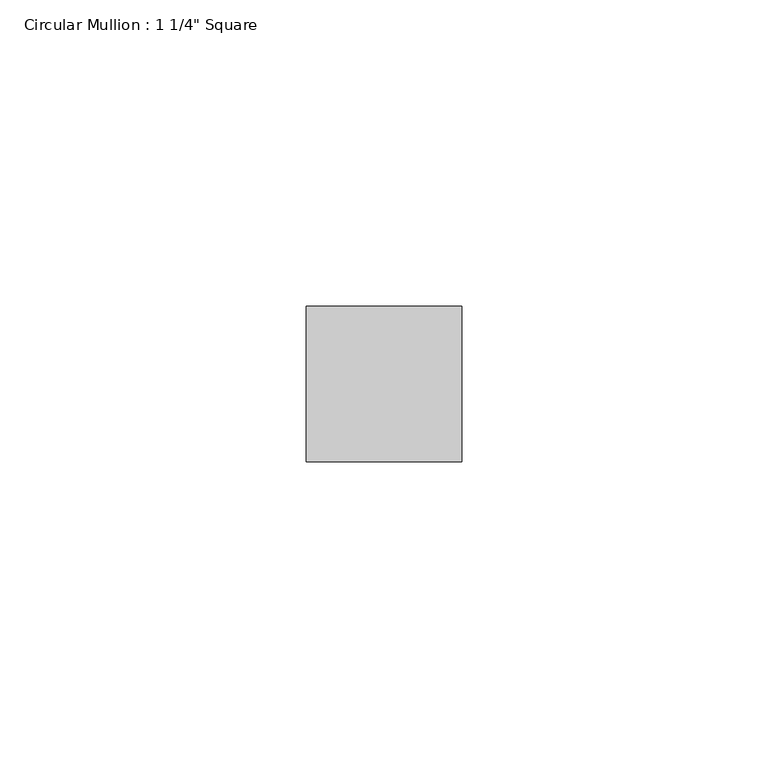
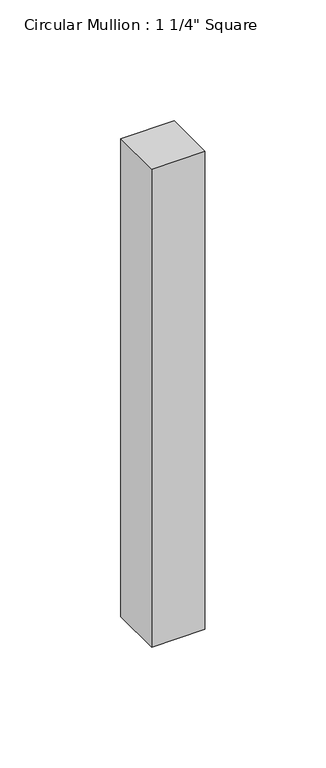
"""IFC4 building model written with IfcOpenShell, lengths in millimetres: member geometry."""

from ifc_helpers import new_model, si_unit, frame, origin, place, context, project, spatial, polyline, outline, extrude, source, transform, mapped, element, save


def member_f8d4dbeb(model_context):
    return source(origin(), model_context, "Body", "SweptSolid", [
        extrude(outline(polyline([(12.7, 12.7), (12.7, -12.7), (-12.7, -12.7), (-12.7, 12.7), (12.7, 12.7)])), frame((0.0, 0.0, -241.2999997), z_axis=(0.0, 0.0, 1.0), x_axis=(1.0, 0.0, 0.0)), (0.0, 0.0, 1.0), 241.2999997),
    ])


if __name__ == "__main__":
    model = new_model("IFC4")
    model_context = context("Model", 3, world=origin())
    ifc_project = project(units=[si_unit("LENGTHUNIT", "METRE", prefix="MILLI")], contexts=[model_context])
    site = spatial("IfcSite", under=ifc_project)
    building = spatial("IfcBuilding", under=site)
    placement = place(None, origin())
    member_shape = member_f8d4dbeb(model_context)
    element("IfcMember", 1, ObjectType="Circular Mullion : 1 1/4\" Square", at=placement, inside=building, context=model_context, shape_type="MappedRepresentation", body=[
        mapped(member_shape, transform((0.0, 0.0, 0.0), x_axis=(1.0, 0.0, 0.0), y_axis=(0.0, 1.0, 0.0), z_axis=(0.0, 0.0, 1.0))),
    ])
    save(model, "model.ifc")
